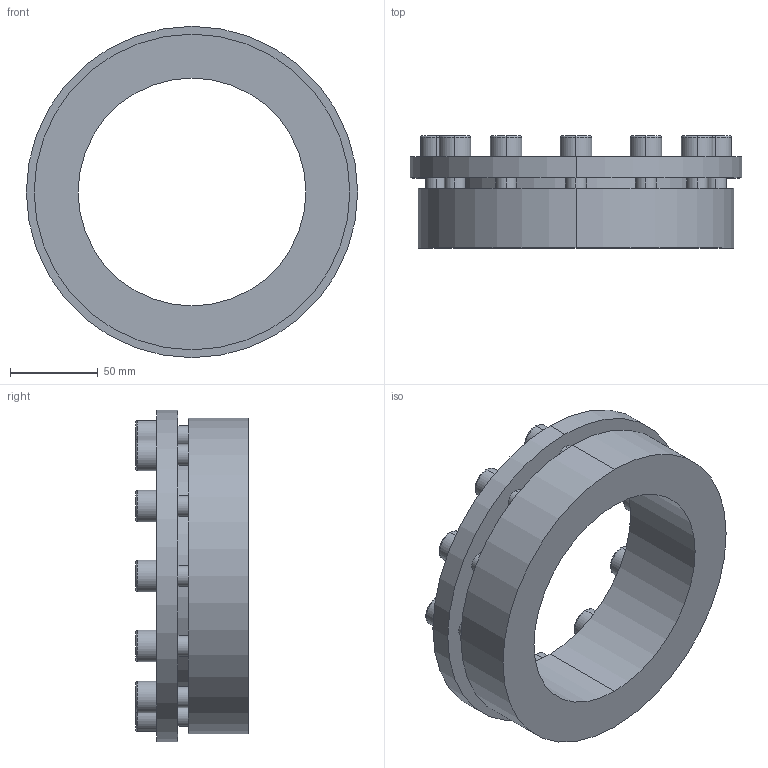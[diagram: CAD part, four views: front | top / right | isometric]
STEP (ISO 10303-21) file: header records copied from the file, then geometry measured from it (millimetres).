
FILE_DESCRIPTION (( 'STEP AP203' ), '1' );
FILE_NAME ('PL-H6 130-180.STEP', '2021-10-23T01:38:59', ( '' ), ( '' ), 'SwSTEP 2.0', 'SolidWorks 2018', '' );
FILE_SCHEMA (( 'CONFIG_CONTROL_DESIGN' ));
Length unit declared in the file: millimetre
Products named in the file (1): PL-H6 130-180
Bounding box: 189 x 64 x 189 mm (x, y, z)
Volume: 642421.2 mm3; surface area: 110238.5 mm2
Topology: 1 solids, 1 shells, 180 faces, 432 edges, 280 vertices
Faces by surface type: plane 100, cylinder 56, torus 24
Entity records: 5373 total; most frequent: DIRECTION 954, CARTESIAN_POINT 893, ORIENTED_EDGE 864, EDGE_CURVE 432, AXIS2_PLACEMENT_3D 341, VERTEX_POINT 280, VECTOR 272, LINE 272
